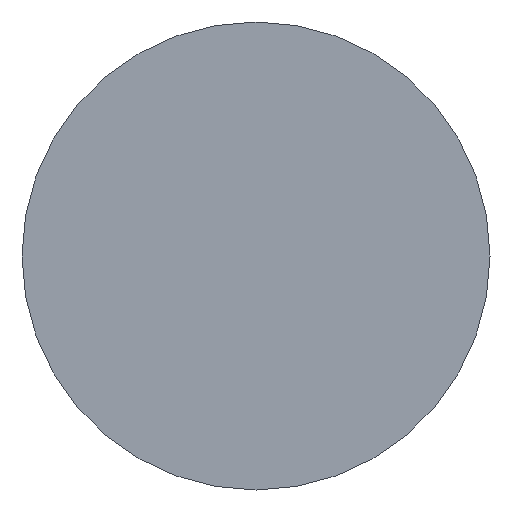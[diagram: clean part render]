
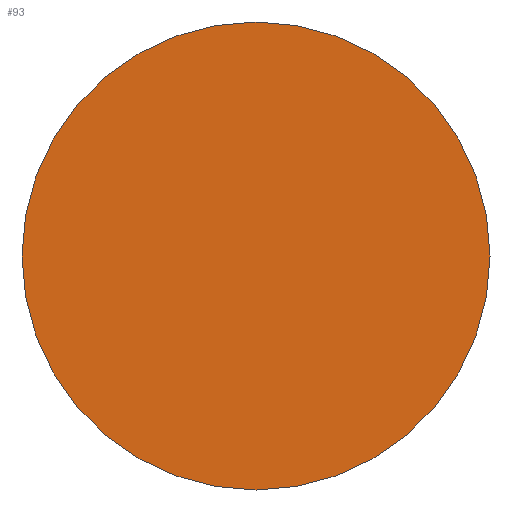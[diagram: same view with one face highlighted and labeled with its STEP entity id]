
A CAD part, front view. The second image highlights one B-rep face of the part: STEP entity #93.
In plain terms, the highlighted planar face has unit normal (0, -1, 0).
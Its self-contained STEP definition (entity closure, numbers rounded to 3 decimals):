
#30 = DIRECTION ( 'NONE',  ( 0., -1., 0. ) ) ;
#38 = CARTESIAN_POINT ( 'NONE',  ( 0., 0., 6. ) ) ;
#46 = CIRCLE ( 'NONE', #501, 6. ) ;
#70 = DIRECTION ( 'NONE',  ( 0., 0., -1. ) ) ;
#89 = EDGE_CURVE ( 'NONE', #429, #411, #361, .T. ) ;
#93 = ADVANCED_FACE ( 'NONE', ( #403 ), #382, .T. ) ;
#107 = CARTESIAN_POINT ( 'NONE',  ( 0., 0., 0. ) ) ;
#224 = ORIENTED_EDGE ( 'NONE', *, *, #89, .T. ) ;
#227 = DIRECTION ( 'NONE',  ( 0., 0., -1. ) ) ;
#266 = CARTESIAN_POINT ( 'NONE',  ( 0., 0., 0. ) ) ;
#290 = CARTESIAN_POINT ( 'NONE',  ( 0., 0., -6. ) ) ;
#304 = CARTESIAN_POINT ( 'NONE',  ( 6., 0., 0. ) ) ;
#358 = AXIS2_PLACEMENT_3D ( 'NONE', #266, #384, #455 ) ;
#361 = CIRCLE ( 'NONE', #358, 6. ) ;
#364 = EDGE_CURVE ( 'NONE', #411, #429, #46, .T. ) ;
#382 = PLANE ( 'NONE',  #482 ) ;
#384 = DIRECTION ( 'NONE',  ( 0., -1., 0. ) ) ;
#403 = FACE_OUTER_BOUND ( 'NONE', #457, .T. ) ;
#411 = VERTEX_POINT ( 'NONE', #38 ) ;
#421 = DIRECTION ( 'NONE',  ( 0., -1., 0. ) ) ;
#423 = ORIENTED_EDGE ( 'NONE', *, *, #364, .T. ) ;
#429 = VERTEX_POINT ( 'NONE', #290 ) ;
#455 = DIRECTION ( 'NONE',  ( 0., 0., -1. ) ) ;
#457 = EDGE_LOOP ( 'NONE', ( #224, #423 ) ) ;
#482 = AXIS2_PLACEMENT_3D ( 'NONE', #304, #30, #227 ) ;
#501 = AXIS2_PLACEMENT_3D ( 'NONE', #107, #421, #70 ) ;
